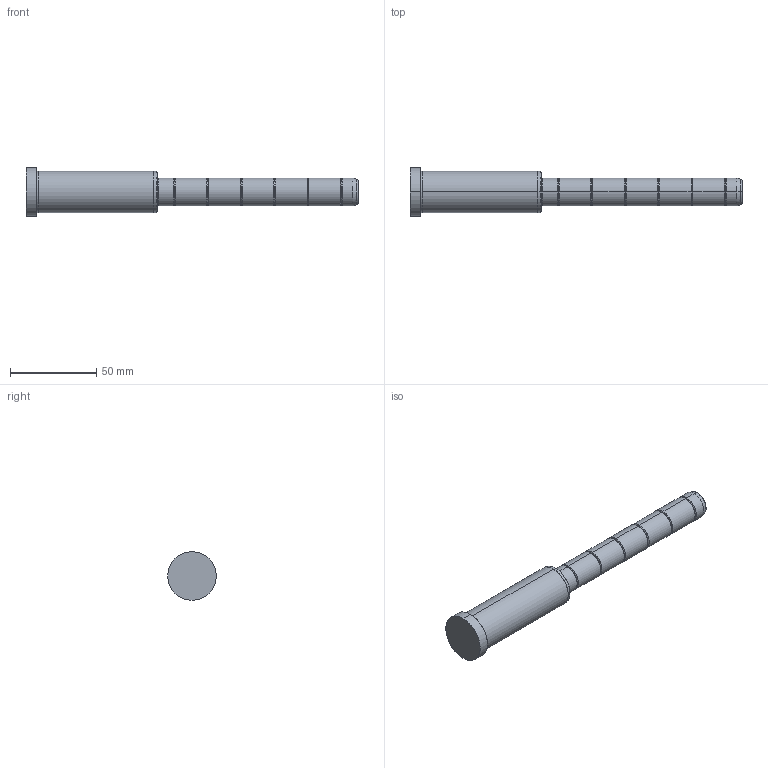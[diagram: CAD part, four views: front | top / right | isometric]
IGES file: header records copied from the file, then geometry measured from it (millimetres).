
Start section: SolidWorks IGES file using analytic representation for surfaces
Global section: file name: C:\Documents and Settings\kalite-mail\Desktop\IGS\D02\16\D02 - 16x76x116.IGS; native system: SolidWorks 2008; preprocessor: SolidWorks 2008; author: kalite-mail; date: 080616.145129; units: millimetre
Bounding box: 192 x 28 x 28 mm (x, y, z)
Surface area: 12942.5 mm2 (no closed solid volume)
Topology: 0 solids, 0 shells, 60 faces, 600 edges, 600 vertices
Faces by surface type: bspline 34, revolution 26
